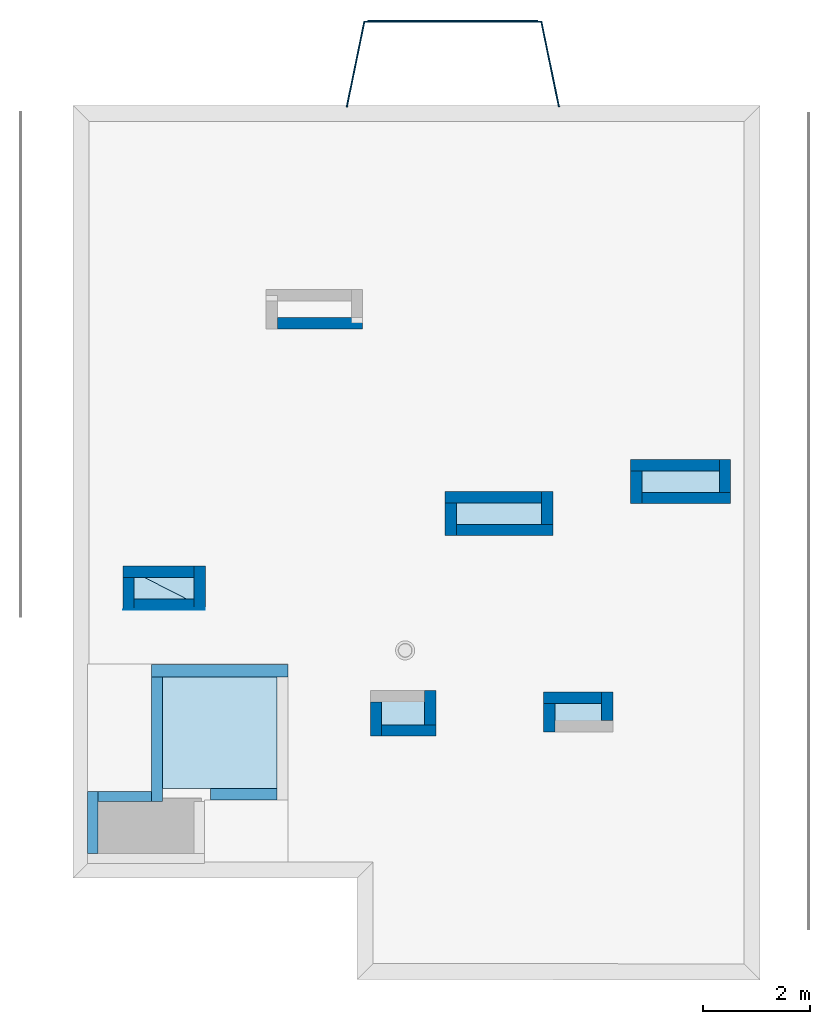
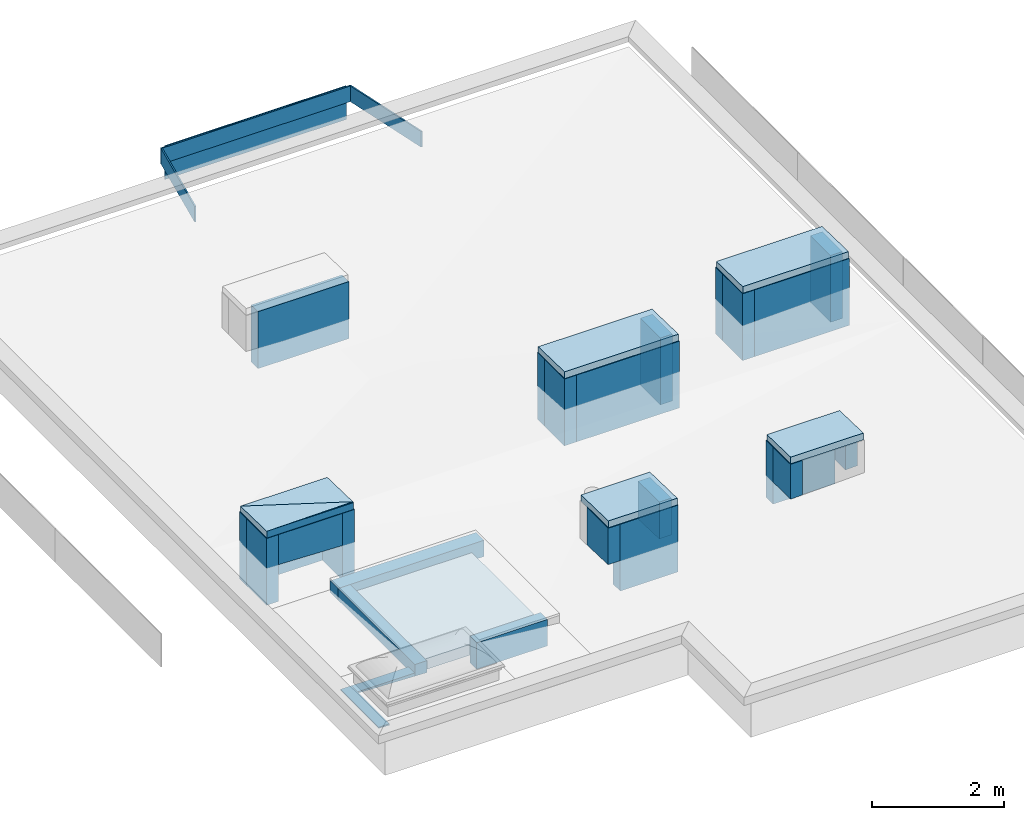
# One storey, part 1 of 6: 28 walls, 8 slabs, 6 elements without a shape of their own.
"""IFC2X3 building model written with IfcOpenShell, lengths in millimetres."""

from ifc_helpers import new_model, entity, si_unit, converted_unit, direction, frame, frame_2d, origin, place, context, subcontext, project, spatial, polyline, rectangle, outline, extrude, clip, bounded_halfspace, material, layer, layer_set, layer_usage, type_object, element, aggregate, save


model = new_model("IFC2X3")

# Units and contexts
model_context = context("Model", 3, precision=0.01, world=origin(), true_north=direction((6.123233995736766e-17, 1.0)))
plan_context = context("Plan", 3, precision=0.01, world=origin(), true_north=direction((6.123233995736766e-17, 1.0)))
body_context = subcontext(model_context, "Body", "Model", "MODEL_VIEW")
ifc_project = project(units=[si_unit("LENGTHUNIT", "METRE", prefix="MILLI"), converted_unit("PLANEANGLEUNIT", "DEGREE", entity("IfcPlaneAngleMeasure", 0.017453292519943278), si_unit("PLANEANGLEUNIT", "RADIAN"), dimensions=[0, 0, 0, 0, 0, 0, 0]), si_unit("AREAUNIT", "SQUARE_METRE")], contexts=[model_context, plan_context])

# Site, building, storey
site_placement = place(None, origin())
site = spatial("IfcSite", under=ifc_project, at=site_placement, Name="Default", CompositionType="ELEMENT")
building_placement = place(site_placement, origin())
building = spatial("IfcBuilding", under=site, at=building_placement, CompositionType="ELEMENT")
storey_placement = place(building_placement, frame((0.0, 0.0, 16500.0)))
storey = spatial("IfcBuildingStorey", under=building, at=storey_placement, Name="Parapet", CompositionType="ELEMENT", Elevation=16499.999999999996)

# Roof, slab
ifc_material_1 = material(Name="_K. Betoon. Armeeritud. Monteeritav")
ifc_layer_1 = layer(ifc_material_1, 200.0)
ifc_layer_set_1 = layer_set([ifc_layer_1], Name="Basic Roof:KL-05 2")
roof_1_placement = place(storey_placement, frame((1209.993534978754, 3109.993855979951, -365.0)))
roof_1 = element("IfcRoof", 1, at=roof_1_placement, inside=storey, material=ifc_layer_set_1, Name="Basic Roof:KL-05 2", ObjectType="Basic Roof:KL-05 2", ShapeType="NOTDEFINED")
type_product_1 = type_object("IfcTypeProduct", Name="Basic Roof:KL-05 2")
slab_1_placement = place(roof_1_placement, origin())
slab_1 = element("IfcSlab", 2, at=slab_1_placement, type_object=type_product_1, material=ifc_layer_set_1, Name="Basic Roof:KL-05 2", ObjectType="Basic Roof:KL-05 2", PredefinedType="ROOF", context=body_context, shape_type="SweptSolid", body=[
    extrude(rectangle(XDim=2129.999999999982, YDim=2080.004577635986, at=frame_2d((-1.1368683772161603e-13, 0.0), x_axis=(1.0, 0.0))), frame((1065.0, 1040.002288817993, 0.0)), (0.0, 0.0, 1.0), 200.0),
])
aggregate(roof_1, [slab_1])

ifc_material_2 = material(Name="_K. Katusekate. Rullmaterjal. SBS")
ifc_layer_2 = layer(ifc_material_2, 10.0)
ifc_material_3 = material(Name="_K. Soojustus. Mineraalvill")
ifc_layer_3 = layer(ifc_material_3, 100.0)
ifc_material_4 = material(Name="_K. Ehitusplaat. Vineer. Veekindel")
ifc_layer_4 = layer(ifc_material_4, 15.0)
ifc_layer_set_2 = layer_set([ifc_layer_2, ifc_layer_3, ifc_layer_4], Name="Basic Roof:KL-01 müts")
roof_2_placement = place(storey_placement, frame((6490.0, 7840.0, 320.0)))
roof_2 = element("IfcRoof", 3, at=roof_2_placement, inside=storey, material=ifc_layer_set_2, Name="Basic Roof:KL-01 müts", ObjectType="Basic Roof:KL-01 müts", ShapeType="NOTDEFINED")
type_product_2 = type_object("IfcTypeProduct", Name="Basic Roof:KL-01 müts")
slab_2_placement = place(roof_2_placement, origin())
slab_2 = element("IfcSlab", 4, at=slab_2_placement, type_object=type_product_2, material=ifc_layer_set_2, Name="Basic Roof:KL-01 müts", ObjectType="Basic Roof:KL-01 müts", PredefinedType="ROOF", context=body_context, shape_type="SweptSolid", body=[
    extrude(rectangle(XDim=800.2499609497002, YDim=1990.0000000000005, at=frame_2d((-5.684341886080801e-13, -2.842170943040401e-14), x_axis=(0.0, -1.0))), frame((995.0, 400.0, 10.0), z_axis=(0.0, 0.02499219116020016, 0.9996876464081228), x_axis=(1.0, 0.0, 0.0)), (0.0, -0.02499219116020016, 0.9996876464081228), 124.99999999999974),
])
aggregate(roof_2, [slab_2])

roof_3_placement = place(storey_placement, frame((9950.0, 8440.0, 320.0)))
roof_3 = element("IfcRoof", 5, at=roof_3_placement, inside=storey, material=ifc_layer_set_2, Name="Basic Roof:KL-01 müts", ObjectType="Basic Roof:KL-01 müts", ShapeType="NOTDEFINED")
slab_3_placement = place(roof_3_placement, origin())
slab_3 = element("IfcSlab", 6, at=slab_3_placement, type_object=type_product_2, material=ifc_layer_set_2, Name="Basic Roof:KL-01 müts", ObjectType="Basic Roof:KL-01 müts", PredefinedType="ROOF", context=body_context, shape_type="SweptSolid", body=[
    extrude(rectangle(XDim=800.2499609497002, YDim=1849.9999999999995, at=frame_2d((0.0, -2.842170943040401e-14), x_axis=(0.0, -1.0))), frame((925.0, 400.0, 10.0), z_axis=(0.0, 0.02499219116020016, 0.9996876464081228), x_axis=(1.0, 0.0, 0.0)), (0.0, -0.02499219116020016, 0.9996876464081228), 124.99999999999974),
])
aggregate(roof_3, [slab_3])

# Roof, slabs
roof_4_placement = place(storey_placement, frame((480.0, 6450.0, 320.0)))
roof_4 = element("IfcRoof", 7, at=roof_4_placement, inside=storey, material=ifc_layer_set_2, Name="Basic Roof:KL-01 müts", ObjectType="Basic Roof:KL-01 müts", ShapeType="NOTDEFINED")
slab_4_placement = place(roof_4_placement, origin())
slab_4 = element("IfcSlab", 8, at=slab_4_placement, type_object=type_product_2, material=ifc_layer_set_2, Name="Basic Roof:KL-01 müts", ObjectType="Basic Roof:KL-01 müts", PredefinedType="ROOF", context=body_context, shape_type="SweptSolid", body=[
    extrude(outline(polyline([(-760.0000642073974, 400.1249804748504), (-760.0000642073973, -400.12498047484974), (760.0000642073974, -375.13278931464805), (-760.0000642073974, 400.1249804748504)])), frame((760.0, 400.00780762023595, 10.312304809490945), z_axis=(-0.0004110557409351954, 0.02499218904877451, 0.999687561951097), x_axis=(0.9999999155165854, 1.0273183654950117e-05, 0.0004109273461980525)), (0.0004109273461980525, -0.02499219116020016, 0.999687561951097), 124.99999999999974),
])
slab_5_placement = place(roof_4_placement, origin())
slab_5 = element("IfcSlab", 9, at=slab_5_placement, type_object=type_product_2, material=ifc_layer_set_2, Name="Basic Roof:KL-01 müts", ObjectType="Basic Roof:KL-01 müts", PredefinedType="ROOF", context=body_context, shape_type="SweptSolid", body=[
    extrude(outline(polyline([(-760.0, -12.499999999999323), (760.0, -12.499999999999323), (760.0, 12.499999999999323), (-760.0, -12.499999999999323)])), frame((760.0, 12.499999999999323, 20.0)), (0.0, 0.0, 1.0), 124.99999999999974),
])
slab_6_placement = place(roof_4_placement, origin())
slab_6 = element("IfcSlab", 10, at=slab_6_placement, type_object=type_product_2, material=ifc_layer_set_2, Name="Basic Roof:KL-01 müts", ObjectType="Basic Roof:KL-01 müts", PredefinedType="ROOF", context=body_context, shape_type="SweptSolid", body=[
    extrude(outline(polyline([(-916.8919000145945, 80.0208578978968), (603.1080999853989, -695.2371636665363), (603.1080999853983, 80.0208578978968), (-916.8919000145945, 80.0208578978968)])), frame((916.8919000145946, 720.0057746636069, 2.064367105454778), z_axis=(0.0, 0.025797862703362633, 0.9996671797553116), x_axis=(1.0, 0.0, 0.0)), (0.0, -0.025797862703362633, 0.9996671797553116), 124.99999999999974),
])
aggregate(roof_4, [slab_4, slab_5, slab_6])

# Roof, slab
roof_5_placement = place(storey_placement, frame((5094.997197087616, 4100.0, 320.0)))
roof_5 = element("IfcRoof", 11, at=roof_5_placement, inside=storey, material=ifc_layer_set_2, Name="Basic Roof:KL-01 müts", ObjectType="Basic Roof:KL-01 müts", ShapeType="NOTDEFINED")
slab_7_placement = place(roof_5_placement, origin())
slab_7 = element("IfcSlab", 12, at=slab_7_placement, type_object=type_product_2, material=ifc_layer_set_2, Name="Basic Roof:KL-01 müts", ObjectType="Basic Roof:KL-01 müts", PredefinedType="ROOF", context=body_context, shape_type="SweptSolid", body=[
    extrude(rectangle(XDim=830.2409288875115, YDim=1205.0000000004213, at=frame_2d((5.115907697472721e-13, 0.0), x_axis=(0.0, -1.0))), frame((602.5000000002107, 415.0, 10.0), z_axis=(0.0, 0.02408939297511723, 0.9997098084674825), x_axis=(1.0, 0.0, 0.0)), (0.0, -0.02408939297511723, 0.9997098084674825), 124.99999999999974),
])
aggregate(roof_5, [slab_7])

roof_6_placement = place(storey_placement, frame((8328.0, 4180.0, 320.0)))
roof_6 = element("IfcRoof", 13, at=roof_6_placement, inside=storey, material=ifc_layer_set_2, Name="Basic Roof:KL-01 müts", ObjectType="Basic Roof:KL-01 müts", ShapeType="NOTDEFINED")
slab_8_placement = place(roof_6_placement, origin())
slab_8 = element("IfcSlab", 14, at=slab_8_placement, type_object=type_product_2, material=ifc_layer_set_2, Name="Basic Roof:KL-01 müts", ObjectType="Basic Roof:KL-01 müts", PredefinedType="ROOF", context=body_context, shape_type="SweptSolid", body=[
    extrude(rectangle(XDim=720.2777242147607, YDim=1271.999999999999, at=frame_2d((-5.684341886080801e-13, -5.684341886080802e-14), x_axis=(0.0, -1.0))), frame((636.0, 360.0, 10.0), z_axis=(0.0, 0.027767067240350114, 0.9996144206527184), x_axis=(1.0, 0.0, 0.0)), (0.0, -0.027767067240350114, 0.9996144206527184), 124.99999999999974),
])
aggregate(roof_6, [slab_8])

# Walls
ifc_layer_5 = layer(ifc_material_2, 10.0)
ifc_layer_6 = layer(ifc_material_3, 30.0)
ifc_material_5 = material(Name="_K. Soojustus. EPS")
ifc_layer_7 = layer(ifc_material_5, 200.0)
ifc_layer_set_3 = layer_set([ifc_layer_5, ifc_layer_6, ifc_layer_7], Name="Basic Wall:VS-liftimüts 2")
ifc_layer_usage_1 = layer_usage(ifc_layer_set_3, "AXIS2", "NEGATIVE", 120.00000000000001)
wall_type_1 = type_object("IfcWallType", Name="Basic Wall:VS-liftimüts 2", PredefinedType="STANDARD", material=ifc_layer_set_3)
wall_1_placement = place(storey_placement, frame((999.9935349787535, 5309.998433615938, -313.790204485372)))
element("IfcWallStandardCase", 15, at=wall_1_placement, inside=storey, type_object=wall_type_1, material=ifc_layer_usage_1, Name="Basic Wall:VS-liftimüts 2", ObjectType="Basic Wall:VS-liftimüts 2", context=body_context, shape_type="Clipping", body=[
    clip(extrude(rectangle(XDim=2549.9999999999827, YDim=239.99999999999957, at=frame_2d((1274.9999999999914, -4.405364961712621e-13), x_axis=(-1.0, 0.0))), origin(), (0.0, 0.0, 1.0), 303.79020448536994), bounded_halfspace(frame((2550.0, -120.0, 0.0), z_axis=(0.03468210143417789, 0.0, 0.9993983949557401), x_axis=(0.0, -1.0, 0.0)), True, frame((2550.0, -120.0, 0.0), z_axis=(0.03468210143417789, 0.0, 0.9993983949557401), x_axis=(0.0, -1.0, 0.0)), polyline([(0.0, 0.0), (-240.14447212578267, 0.0), (-240.14447212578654, -2553.070956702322), (0.0, -2553.0709567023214), (0.0, -2342.8180543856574), (0.0, -210.2529023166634), (0.0, 0.0)]))),
])
ifc_layer_8 = layer(ifc_material_2, 10.0)
ifc_layer_9 = layer(ifc_material_3, 30.0)
ifc_layer_10 = layer(ifc_material_5, 170.0)
ifc_layer_set_4 = layer_set([ifc_layer_8, ifc_layer_9, ifc_layer_10], Name="Basic Wall:VS-liftimüts")
ifc_layer_usage_2 = layer_usage(ifc_layer_set_4, "AXIS2", "NEGATIVE", 105.0)
wall_type_2 = type_object("IfcWallType", Name="Basic Wall:VS-liftimüts", PredefinedType="STANDARD", material=ifc_layer_set_4)
wall_2_placement = place(storey_placement, frame((3339.993534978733, 3004.993855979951, -500.0), z_axis=(0.0, 0.0, 1.0), x_axis=(-1.0, 0.0, 0.0)))
element("IfcWallStandardCase", 16, at=wall_2_placement, inside=storey, type_object=wall_type_2, material=ifc_layer_usage_2, Name="Basic Wall:VS-liftimüts", ObjectType="Basic Wall:VS-liftimüts", context=body_context, shape_type="SweptSolid", body=[
    extrude(rectangle(XDim=1239.9935349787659, YDim=209.9999999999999, at=frame_2d((619.9967674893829, 7.105427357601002e-14), x_axis=(-1.0, 0.0))), origin(), (0.0, 0.0, 1.0), 490.00000000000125),
])
ifc_layer_usage_3 = layer_usage(ifc_layer_set_4, "AXIS2", "NEGATIVE", 105.0)
wall_3_placement = place(storey_placement, frame((1104.9935349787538, 2870.0302014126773, -232.58523380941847), z_axis=(0.0, 0.0, 1.0), x_axis=(0.0, 1.0, 0.0)))
element("IfcWallStandardCase", 17, at=wall_3_placement, inside=storey, type_object=wall_type_2, material=ifc_layer_usage_3, Name="Basic Wall:VS-liftimüts", ObjectType="Basic Wall:VS-liftimüts", context=body_context, shape_type="Clipping", body=[
    clip(extrude(rectangle(XDim=2319.96823220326, YDim=209.9999999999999, at=frame_2d((1159.98411610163, 7.105427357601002e-15), x_axis=(-1.0, 0.0))), origin(), (0.0, 0.0, 1.0), 222.58523380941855), bounded_halfspace(frame((2319.96823220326, -105.0, 0.0), z_axis=(0.0, -0.03468210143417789, 0.9993983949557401), x_axis=(-1.0, 0.0, 0.0)), True, frame((2319.96823220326, -105.0, 0.0), z_axis=(0.0, -0.03468210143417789, 0.9993983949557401), x_axis=(-1.0, 0.0, 0.0)), polyline([(0.0, 0.0), (0.0, -210.25290231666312), (2131.250403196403, -210.2529023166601), (2321.3647769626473, -210.2529023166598), (2321.3647769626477, 0.0), (2081.25667214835, 0.0), (0.0, 0.0)]))),
])
ifc_layer_11 = layer(ifc_material_2, 10.0)
ifc_layer_12 = layer(ifc_material_3, 100.0)
ifc_material_6 = material(Name="_K. Müüritis. Väikeplokk. Kergkruusplokk")
ifc_layer_13 = layer(ifc_material_6, 100.0)
ifc_layer_set_5 = layer_set([ifc_layer_11, ifc_layer_12, ifc_layer_13], Name="Basic Wall:VS-Šahtimüts")
ifc_layer_usage_4 = layer_usage(ifc_layer_set_5, "AXIS2", "NEGATIVE", 105.0)
wall_type_3 = type_object("IfcWallType", Name="Basic Wall:VS-Šahtimüts", PredefinedType="STANDARD", material=ifc_layer_set_5)
wall_4_placement = place(storey_placement, frame((470.0, 7155.0, -895.0012655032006)))
element("IfcWallStandardCase", 18, at=wall_4_placement, inside=storey, type_object=wall_type_3, material=ifc_layer_usage_4, Name="Basic Wall:VS-Šahtimüts", ObjectType="Basic Wall:VS-Šahtimüts", context=body_context, shape_type="SweptSolid", body=[
    extrude(rectangle(XDim=1329.9999999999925, YDim=209.99999999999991, at=frame_2d((664.9999999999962, 0.0), x_axis=(-1.0, 0.0))), origin(), (0.0, 0.0, 1.0), 1235.0000000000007),
])
ifc_layer_usage_5 = layer_usage(ifc_layer_set_5, "AXIS2", "NEGATIVE", 105.0)
wall_5_placement = place(storey_placement, frame((575.0, 6440.0, -895.0012655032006), z_axis=(0.0, 0.0, 1.0), x_axis=(0.0, 1.0, 0.0)))
element("IfcWallStandardCase", 19, at=wall_5_placement, inside=storey, type_object=wall_type_3, material=ifc_layer_usage_5, Name="Basic Wall:VS-Šahtimüts", ObjectType="Basic Wall:VS-Šahtimüts", context=body_context, shape_type="SweptSolid", body=[
    extrude(rectangle(XDim=609.9999999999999, YDim=210.00000000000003, at=frame_2d((304.99999999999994, 0.0), x_axis=(-1.0, 0.0))), origin(), (0.0, 0.0, 1.0), 1235.0000000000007),
])
ifc_layer_usage_6 = layer_usage(ifc_layer_set_5, "AXIS2", "NEGATIVE", 105.0)
wall_6_placement = place(storey_placement, frame((1800.0, 6545.0, -253.06021572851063), z_axis=(0.0, 0.0, 1.0), x_axis=(-1.0, 0.0, 0.0)))
element("IfcWallStandardCase", 20, at=wall_6_placement, inside=storey, type_object=wall_type_3, material=ifc_layer_usage_6, Name="Basic Wall:VS-Šahtimüts", ObjectType="Basic Wall:VS-Šahtimüts", context=body_context, shape_type="Clipping", body=[
    clip(extrude(rectangle(XDim=1119.9999999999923, YDim=209.99999999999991, at=frame_2d((559.9999999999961, 0.0), x_axis=(-1.0, 0.0))), origin(), (0.0, 0.0, 1.0), 593.0602157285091), bounded_halfspace(frame((1120.0, -105.0, 38.86733639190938), z_axis=(-0.03468210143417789, 0.0, 0.9993983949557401), x_axis=(0.0, 1.0, 0.0)), True, frame((1120.0, -105.0, 38.86733639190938), z_axis=(-0.03468210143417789, 0.0, 0.9993983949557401), x_axis=(0.0, 1.0, 0.0)), polyline([(0.0, 0.0), (210.12641311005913, 0.0), (210.12641311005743, 1121.3488123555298), (0.0, 1121.348812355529), (0.0, 1011.2163397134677), (0.0, 0.0)]))),
])
ifc_layer_usage_7 = layer_usage(ifc_layer_set_5, "AXIS2", "NEGATIVE", 105.0)
wall_7_placement = place(storey_placement, frame((1905.0, 7260.0, -895.0), z_axis=(0.0, 0.0, 1.0), x_axis=(0.0, -1.0, 0.0)))
element("IfcWallStandardCase", 21, at=wall_7_placement, inside=storey, type_object=wall_type_3, material=ifc_layer_usage_7, Name="Basic Wall:VS-Šahtimüts", ObjectType="Basic Wall:VS-Šahtimüts", context=body_context, shape_type="SweptSolid", body=[
    extrude(rectangle(XDim=819.9999999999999, YDim=209.99999999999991, at=frame_2d((409.99999999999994, 0.0), x_axis=(-1.0, 0.0))), origin(), (0.0, 0.0, 1.0), 1235.0000000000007),
])
ifc_layer_usage_8 = layer_usage(ifc_layer_set_5, "AXIS2", "NEGATIVE", 105.0)
wall_8_placement = place(storey_placement, frame((6480.0, 8545.0, -895.0012655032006)))
element("IfcWallStandardCase", 22, at=wall_8_placement, inside=storey, type_object=wall_type_3, material=ifc_layer_usage_8, Name="Basic Wall:VS-Šahtimüts", ObjectType="Basic Wall:VS-Šahtimüts", context=body_context, shape_type="SweptSolid", body=[
    extrude(rectangle(XDim=1800.0000000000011, YDim=209.99999999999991, at=frame_2d((900.0000000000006, 0.0), x_axis=(-1.0, 0.0))), origin(), (0.0, 0.0, 1.0), 1235.0000000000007),
])
ifc_layer_usage_9 = layer_usage(ifc_layer_set_5, "AXIS2", "NEGATIVE", 105.0)
wall_9_placement = place(storey_placement, frame((6585.0, 7830.0, -895.0012655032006), z_axis=(0.0, 0.0, 1.0), x_axis=(0.0, 1.0, 0.0)))
element("IfcWallStandardCase", 23, at=wall_9_placement, inside=storey, type_object=wall_type_3, material=ifc_layer_usage_9, Name="Basic Wall:VS-Šahtimüts", ObjectType="Basic Wall:VS-Šahtimüts", context=body_context, shape_type="SweptSolid", body=[
    extrude(rectangle(XDim=609.9999999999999, YDim=209.99999999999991, at=frame_2d((304.99999999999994, 0.0), x_axis=(-1.0, 0.0))), origin(), (0.0, 0.0, 1.0), 1235.0000000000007),
])
ifc_layer_usage_10 = layer_usage(ifc_layer_set_5, "AXIS2", "NEGATIVE", 105.0)
wall_10_placement = place(storey_placement, frame((8490.0, 7935.0, -895.0), z_axis=(0.0, 0.0, 1.0), x_axis=(-1.0, 0.0, 0.0)))
element("IfcWallStandardCase", 24, at=wall_10_placement, inside=storey, type_object=wall_type_3, material=ifc_layer_usage_10, Name="Basic Wall:VS-Šahtimüts", ObjectType="Basic Wall:VS-Šahtimüts", context=body_context, shape_type="SweptSolid", body=[
    extrude(rectangle(XDim=1800.0000000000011, YDim=209.99999999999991, at=frame_2d((900.0000000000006, 0.0), x_axis=(-1.0, 0.0))), origin(), (0.0, 0.0, 1.0), 1235.0000000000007),
])
ifc_layer_usage_11 = layer_usage(ifc_layer_set_5, "AXIS2", "NEGATIVE", 105.0)
wall_11_placement = place(storey_placement, frame((8385.0, 8650.0, -895.0), z_axis=(0.0, 0.0, 1.0), x_axis=(0.0, -1.0, 0.0)))
element("IfcWallStandardCase", 25, at=wall_11_placement, inside=storey, type_object=wall_type_3, material=ifc_layer_usage_11, Name="Basic Wall:VS-Šahtimüts", ObjectType="Basic Wall:VS-Šahtimüts", context=body_context, shape_type="SweptSolid", body=[
    extrude(rectangle(XDim=609.9999999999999, YDim=209.99999999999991, at=frame_2d((304.99999999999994, 0.0), x_axis=(-1.0, 0.0))), origin(), (0.0, 0.0, 1.0), 1235.0000000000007),
])
ifc_layer_usage_12 = layer_usage(ifc_layer_set_5, "AXIS2", "NEGATIVE", 105.0)
wall_12_placement = place(storey_placement, frame((9940.0, 9145.0, -895.0012655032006)))
element("IfcWallStandardCase", 26, at=wall_12_placement, inside=storey, type_object=wall_type_3, material=ifc_layer_usage_12, Name="Basic Wall:VS-Šahtimüts", ObjectType="Basic Wall:VS-Šahtimüts", context=body_context, shape_type="SweptSolid", body=[
    extrude(rectangle(XDim=1659.9999999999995, YDim=209.99999999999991, at=frame_2d((829.9999999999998, 0.0), x_axis=(-1.0, 0.0))), origin(), (0.0, 0.0, 1.0), 1235.0000000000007),
])
ifc_layer_usage_13 = layer_usage(ifc_layer_set_5, "AXIS2", "NEGATIVE", 105.0)
wall_13_placement = place(storey_placement, frame((10045.0, 8430.0, -895.0012655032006), z_axis=(0.0, 0.0, 1.0), x_axis=(0.0, 1.0, 0.0)))
element("IfcWallStandardCase", 27, at=wall_13_placement, inside=storey, type_object=wall_type_3, material=ifc_layer_usage_13, Name="Basic Wall:VS-Šahtimüts", ObjectType="Basic Wall:VS-Šahtimüts", context=body_context, shape_type="SweptSolid", body=[
    extrude(rectangle(XDim=609.9999999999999, YDim=209.99999999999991, at=frame_2d((304.99999999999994, 0.0), x_axis=(-1.0, 0.0))), origin(), (0.0, 0.0, 1.0), 1235.0000000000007),
])
ifc_layer_usage_14 = layer_usage(ifc_layer_set_5, "AXIS2", "NEGATIVE", 105.0)
wall_14_placement = place(storey_placement, frame((11810.0, 8535.0, -895.0), z_axis=(0.0, 0.0, 1.0), x_axis=(-1.0, 0.0, 0.0)))
element("IfcWallStandardCase", 28, at=wall_14_placement, inside=storey, type_object=wall_type_3, material=ifc_layer_usage_14, Name="Basic Wall:VS-Šahtimüts", ObjectType="Basic Wall:VS-Šahtimüts", context=body_context, shape_type="SweptSolid", body=[
    extrude(rectangle(XDim=1659.9999999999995, YDim=209.99999999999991, at=frame_2d((829.9999999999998, 0.0), x_axis=(-1.0, 0.0))), origin(), (0.0, 0.0, 1.0), 1235.0000000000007),
])
ifc_layer_usage_15 = layer_usage(ifc_layer_set_5, "AXIS2", "NEGATIVE", 105.0)
wall_15_placement = place(storey_placement, frame((11705.0, 9250.0, -895.0), z_axis=(0.0, 0.0, 1.0), x_axis=(0.0, -1.0, 0.0)))
element("IfcWallStandardCase", 29, at=wall_15_placement, inside=storey, type_object=wall_type_3, material=ifc_layer_usage_15, Name="Basic Wall:VS-Šahtimüts", ObjectType="Basic Wall:VS-Šahtimüts", context=body_context, shape_type="SweptSolid", body=[
    extrude(rectangle(XDim=609.9999999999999, YDim=209.99999999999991, at=frame_2d((304.99999999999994, 0.0), x_axis=(-1.0, 0.0))), origin(), (0.0, 0.0, 1.0), 1235.0000000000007),
])
ifc_layer_usage_16 = layer_usage(ifc_layer_set_5, "AXIS2", "NEGATIVE", 105.0)
wall_16_placement = place(storey_placement, frame((4940.0, 11795.0, -714.0012876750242), z_axis=(0.0, 0.0, 1.0), x_axis=(-1.0, 0.0, 0.0)))
element("IfcWallStandardCase", 30, at=wall_16_placement, inside=storey, type_object=wall_type_3, material=ifc_layer_usage_16, Name="Basic Wall:VS-Šahtimüts", ObjectType="Basic Wall:VS-Šahtimüts", context=body_context, shape_type="SweptSolid", body=[
    extrude(rectangle(XDim=1590.0000000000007, YDim=209.99999999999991, at=frame_2d((795.0000000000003, 0.0), x_axis=(-1.0, 0.0))), origin(), (0.0, 0.0, 1.0), 1054.0012876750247),
])
ifc_layer_usage_17 = layer_usage(ifc_layer_set_5, "AXIS2", "NEGATIVE", 105.0)
wall_17_placement = place(storey_placement, frame((5189.997197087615, 4090.0, -356.15481707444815), z_axis=(0.0, 0.0, 1.0), x_axis=(0.0, 1.0, 0.0)))
element("IfcWallStandardCase", 31, at=wall_17_placement, inside=storey, type_object=wall_type_3, material=ifc_layer_usage_17, Name="Basic Wall:VS-Šahtimüts", ObjectType="Basic Wall:VS-Šahtimüts", context=body_context, shape_type="Clipping", body=[
    clip(extrude(rectangle(XDim=640.0000000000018, YDim=209.99999999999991, at=frame_2d((320.0000000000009, 0.0), x_axis=(-1.0, 0.0))), origin(), (0.0, 0.0, 1.0), 696.1535515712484), bounded_halfspace(frame((640.0, -105.0, 0.0), z_axis=(0.03496915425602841, 0.0, 0.9993883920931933), x_axis=(0.6766910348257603, 0.7358862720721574, -0.023677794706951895)), True, frame((640.0, -105.0, 0.0), z_axis=(0.03496915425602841, 0.0, 0.9993883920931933), x_axis=(0.6766910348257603, 0.7358862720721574, -0.023677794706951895)), polyline([(0.0, 0.0), (154.6306904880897, 142.27910213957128), (-279.24717440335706, 613.8229397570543), (-433.8778648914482, 471.54383761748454), (-291.51169047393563, 316.81851589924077), (0.0, 0.0)]))),
])
ifc_layer_usage_18 = layer_usage(ifc_layer_set_5, "AXIS2", "NEGATIVE", 105.0)
wall_18_placement = place(storey_placement, frame((6309.997197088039, 4195.0, -895.0), z_axis=(0.0, 0.0, 1.0), x_axis=(-1.0, 0.0, 0.0)))
element("IfcWallStandardCase", 32, at=wall_18_placement, inside=storey, type_object=wall_type_3, material=ifc_layer_usage_18, Name="Basic Wall:VS-Šahtimüts", ObjectType="Basic Wall:VS-Šahtimüts", context=body_context, shape_type="SweptSolid", body=[
    extrude(rectangle(XDim=1015.0000000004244, YDim=209.99999999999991, at=frame_2d((507.5000000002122, 0.0), x_axis=(-1.0, 0.0))), origin(), (0.0, 0.0, 1.0), 1235.0000000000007),
])
ifc_layer_usage_19 = layer_usage(ifc_layer_set_5, "AXIS2", "NEGATIVE", 105.0)
wall_19_placement = place(storey_placement, frame((6204.997197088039, 4940.0, -363.5028335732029), z_axis=(0.0, 0.0, 1.0), x_axis=(0.0, -1.0, 0.0)))
element("IfcWallStandardCase", 33, at=wall_19_placement, inside=storey, type_object=wall_type_3, material=ifc_layer_usage_19, Name="Basic Wall:VS-Šahtimüts", ObjectType="Basic Wall:VS-Šahtimüts", context=body_context, shape_type="Clipping", body=[
    clip(extrude(rectangle(XDim=640.0000000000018, YDim=209.99999999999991, at=frame_2d((320.0000000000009, 0.0), x_axis=(-1.0, 0.0))), origin(), (0.0, 0.0, 1.0), 703.5028335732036), bounded_halfspace(frame((210.0, -105.0, 7.348016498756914), z_axis=(-0.03496915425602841, 0.0, 0.9993883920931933), x_axis=(-0.6766910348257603, -0.7358862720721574, -0.023677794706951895)), True, frame((210.0, -105.0, 7.348016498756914), z_axis=(-0.03496915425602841, 0.0, 0.9993883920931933), x_axis=(-0.6766910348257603, -0.7358862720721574, -0.023677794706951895)), polyline([(0.0, 0.0), (-291.5116904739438, 316.8185158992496), (-446.14238096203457, 174.53941375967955), (-12.264516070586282, -297.0044238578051), (142.36617441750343, -154.7253217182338), (0.0, 0.0)]))),
])
ifc_layer_usage_20 = layer_usage(ifc_layer_set_5, "AXIS2", "NEGATIVE", 105.0)
wall_20_placement = place(storey_placement, frame((8318.0, 4805.0, -719.0012876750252)))
element("IfcWallStandardCase", 34, at=wall_20_placement, inside=storey, type_object=wall_type_3, material=ifc_layer_usage_20, Name="Basic Wall:VS-Šahtimüts", ObjectType="Basic Wall:VS-Šahtimüts", context=body_context, shape_type="SweptSolid", body=[
    extrude(rectangle(XDim=1081.9999999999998, YDim=209.99999999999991, at=frame_2d((540.9999999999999, 0.0), x_axis=(-1.0, 0.0))), origin(), (0.0, 0.0, 1.0), 1059.0000221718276),
])
ifc_layer_usage_21 = layer_usage(ifc_layer_set_5, "AXIS2", "NEGATIVE", 105.0)
wall_21_placement = place(storey_placement, frame((8423.0, 4170.0, -305.3687394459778), z_axis=(0.0, 0.0, 1.0), x_axis=(0.0, 1.0, 0.0)))
element("IfcWallStandardCase", 35, at=wall_21_placement, inside=storey, type_object=wall_type_3, material=ifc_layer_usage_21, Name="Basic Wall:VS-Šahtimüts", ObjectType="Basic Wall:VS-Šahtimüts", context=body_context, shape_type="Clipping", body=[
    clip(extrude(rectangle(XDim=529.9999999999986, YDim=209.99999999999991, at=frame_2d((264.9999999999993, 0.0), x_axis=(-1.0, 0.0))), origin(), (0.0, 0.0, 1.0), 645.367473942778), bounded_halfspace(frame((530.0, -105.0, 6.756936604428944), z_axis=(0.0, 0.03215924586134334, 0.9994827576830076), x_axis=(1.0, 0.0, 0.0)), True, frame((530.0, -105.0, 6.756936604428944), z_axis=(0.0, 0.03215924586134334, 0.9994827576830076), x_axis=(1.0, 0.0, 0.0)), polyline([(0.0, 0.0), (0.0, 210.2174104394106), (-530.2742802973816, 210.21741043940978), (-530.2742802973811, 0.0), (0.0, 0.0)]))),
])
ifc_layer_usage_22 = layer_usage(ifc_layer_set_5, "AXIS2", "NEGATIVE", 105.0)
wall_22_placement = place(storey_placement, frame((9505.0, 4910.0, -270.5544279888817), z_axis=(0.0, 0.0, 1.0), x_axis=(0.0, -1.0, 0.0)))
element("IfcWallStandardCase", 36, at=wall_22_placement, inside=storey, type_object=wall_type_3, material=ifc_layer_usage_22, Name="Basic Wall:VS-Šahtimüts", ObjectType="Basic Wall:VS-Šahtimüts", context=body_context, shape_type="Clipping", body=[
    clip(extrude(rectangle(XDim=529.9999999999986, YDim=209.99999999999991, at=frame_2d((264.9999999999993, 0.0), x_axis=(-1.0, 0.0))), origin(), (0.0, 0.0, 1.0), 610.5544279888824), bounded_halfspace(frame((530.0, -105.0, 0.0), z_axis=(0.0, -0.03215924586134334, 0.9994827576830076), x_axis=(-1.0, 0.0, 0.0)), True, frame((530.0, -105.0, 0.0), z_axis=(0.0, -0.03215924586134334, 0.9994827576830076), x_axis=(-1.0, 0.0, 0.0)), polyline([(0.0, 0.0), (0.0, -210.21741043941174), (530.2742802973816, -210.21741043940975), (530.2742802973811, 0.0), (320.1656031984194, 0.0), (0.0, 0.0)]))),
])
ifc_material_7 = material(Name="_K. Välisviimistlus. Alumiinium-komposiitplaat")
ifc_layer_14 = layer(ifc_material_7, 4.0)
ifc_material_8 = material(Name="_K. Õhk. Roov. Fassaadikatte alusroov. Horisontaalne. 25 mm")
ifc_layer_15 = layer(ifc_material_8, 16.0)
ifc_layer_set_6 = layer_set([ifc_layer_14, ifc_layer_15], Name="Basic Wall:VS-komposiit")
ifc_layer_usage_23 = layer_usage(ifc_layer_set_6, "AXIS2", "NEGATIVE", 10.000000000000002)
wall_type_4 = type_object("IfcWallType", Name="Basic Wall:VS-komposiit", PredefinedType="STANDARD")
wall_23_placement = place(storey_placement, frame((5040.4165884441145, 17442.0, -1288.999999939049)))
element("IfcWallStandardCase", 37, at=wall_23_placement, inside=storey, type_object=wall_type_4, material=ifc_layer_usage_23, Name="Basic Wall:VS-komposiit", ObjectType="Basic Wall:VS-komposiit", context=body_context, shape_type="SweptSolid", body=[
    extrude(rectangle(XDim=3169.583411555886, YDim=19.999999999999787, at=frame_2d((1584.791705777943, -1.234568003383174e-13), x_axis=(-1.0, 0.0))), origin(), (0.0, 0.0, 1.0), 614.9999999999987),
])
ifc_layer_16 = layer(ifc_material_2, 10.0)
ifc_layer_17 = layer(ifc_material_4, 15.0)
ifc_layer_set_7 = layer_set([ifc_layer_16, ifc_layer_17], Name="Basic Wall:VS-Rõdu parapet")
ifc_layer_usage_24 = layer_usage(ifc_layer_set_7, "AXIS2", "NEGATIVE", 12.5)
wall_type_5 = type_object("IfcWallType", Name="Basic Wall:VS-Rõdu parapet", PredefinedType="STANDARD", material=ifc_layer_set_7)
wall_24_placement = place(storey_placement, frame((8604.919192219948, 15827.475216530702, -965.0), z_axis=(0.0, 0.0, 1.0), x_axis=(-0.20198267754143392, 0.979389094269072, 0.0)))
element("IfcWallStandardCase", 38, at=wall_24_placement, inside=storey, type_object=wall_type_5, material=ifc_layer_usage_24, Name="Basic Wall:VS-Rõdu parapet", ObjectType="Basic Wall:VS-Rõdu parapet", context=body_context, shape_type="SweptSolid", body=[
    extrude(outline(polyline([(1635.7218285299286, -12.500000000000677), (1640.8775981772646, 12.499999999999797), (1615.3514946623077, 12.499999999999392), (5.155833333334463, 12.499999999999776), (0.0, -12.500000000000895), (1635.7218285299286, -12.500000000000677)])), origin(), (0.0, 0.0, 1.0), 290.9999999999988),
])
ifc_layer_usage_25 = layer_usage(ifc_layer_set_7, "AXIS2", "NEGATIVE", 12.5)
wall_25_placement = place(storey_placement, frame((8266.403777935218, 17419.508070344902, -965.0), z_axis=(0.0, 0.0, 1.0), x_axis=(-1.0, -2.443513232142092e-06, 0.0)))
element("IfcWallStandardCase", 39, at=wall_25_placement, inside=storey, type_object=wall_type_5, material=ifc_layer_usage_25, Name="Basic Wall:VS-Rõdu parapet", ObjectType="Basic Wall:VS-Rõdu parapet", context=body_context, shape_type="SweptSolid", body=[
    extrude(outline(polyline([(3302.762914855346, -12.499999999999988), (3307.91874818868, 12.499999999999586), (3282.3926318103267, 12.500000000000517), (0.0, 12.499999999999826), (5.155769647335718, -12.500000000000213), (3302.762914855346, -12.499999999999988)])), origin(), (0.0, 0.0, 1.0), 291.0000000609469),
])
ifc_layer_usage_26 = layer_usage(ifc_layer_set_7, "AXIS2", "NEGATIVE", 12.5)
wall_26_placement = place(storey_placement, frame((4971.768806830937, 17409.524803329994, -965.0), z_axis=(0.0, 0.0, 1.0), x_axis=(-0.20198028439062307, -0.9793895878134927, 0.0)))
element("IfcWallStandardCase", 40, at=wall_26_placement, inside=storey, type_object=wall_type_5, material=ifc_layer_usage_26, Name="Basic Wall:VS-Rõdu parapet", ObjectType="Basic Wall:VS-Rõdu parapet", context=body_context, shape_type="SweptSolid", body=[
    extrude(outline(polyline([(1614.814858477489, -12.500000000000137), (1614.8148584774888, 12.499999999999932), (0.0, 12.499999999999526), (5.155833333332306, -12.499999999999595), (1614.814858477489, -12.500000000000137)])), origin(), (0.0, 0.0, 1.0), 291.0000000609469),
])
ifc_layer_18 = layer(ifc_material_6, 190.00000000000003)
ifc_layer_set_8 = layer_set([ifc_layer_18], Name="Basic Wall:SL")
ifc_layer_usage_27 = layer_usage(ifc_layer_set_8, "AXIS2", "NEGATIVE", 95.00000000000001)
wall_type_6 = type_object("IfcWallType", Name="Basic Wall:SL", PredefinedType="STANDARD", material=ifc_layer_set_8)
wall_27_placement = place(storey_placement, frame((-95.0, 1899.9697985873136, -190.59485367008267), z_axis=(0.0, 0.0, 1.0), x_axis=(0.0, 1.0, 0.0)))
element("IfcWallStandardCase", 41, at=wall_27_placement, inside=storey, type_object=wall_type_6, material=ifc_layer_usage_27, Name="Basic Wall:SL", ObjectType="Basic Wall:SL", context=body_context, shape_type="Clipping", body=[
    clip(extrude(rectangle(XDim=1160.0604028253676, YDim=190.0, at=frame_2d((580.0302014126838, -1.4210854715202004e-14), x_axis=(-1.0, 0.0))), origin(), (0.0, 0.0, 1.0), 25.59485367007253), bounded_halfspace(frame((1160.0604028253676, -95.0, 0.0), z_axis=(0.0, -0.03468210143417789, 0.9993983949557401), x_axis=(-1.0, 0.0, 0.0)), True, frame((1160.0604028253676, -95.0, 0.0), z_axis=(0.0, -0.03468210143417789, 0.9993983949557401), x_axis=(-1.0, 0.0, 0.0)), polyline([(0.0, 0.0), (0.0, -190.22881638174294), (1160.7587211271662, -190.2288163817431), (1160.7587211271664, 0.0), (260.1867310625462, 0.0), (0.0, 0.0)]))),
])
ifc_layer_usage_28 = layer_usage(ifc_layer_set_8, "AXIS2", "NEGATIVE", 95.00000000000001)
wall_28_placement = place(storey_placement, frame((0.0, 2965.030201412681, -225.29760823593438)))
element("IfcWallStandardCase", 42, at=wall_28_placement, inside=storey, type_object=wall_type_6, material=ifc_layer_usage_28, Name="Basic Wall:SL", ObjectType="Basic Wall:SL", context=body_context, shape_type="Clipping", body=[
    clip(extrude(rectangle(XDim=999.9935349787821, YDim=190.0000000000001, at=frame_2d((499.99676748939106, -1.0658141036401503e-13), x_axis=(-1.0, 0.0))), origin(), (0.0, 0.0, 1.0), 60.2976082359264), bounded_halfspace(frame((999.9935349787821, -95.0, 0.0), z_axis=(0.03468210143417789, 0.0, 0.9993983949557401), x_axis=(0.0, -1.0, 0.0)), True, frame((999.9935349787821, -95.0, 0.0), z_axis=(0.03468210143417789, 0.0, 0.9993983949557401), x_axis=(0.0, -1.0, 0.0)), polyline([(0.0, 0.0), (-190.11437376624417, 0.0), (-190.11437376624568, -1001.1978239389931), (0.0, -1001.1978239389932), (0.0, 0.0)]))),
])

save(model, "model.ifc")
